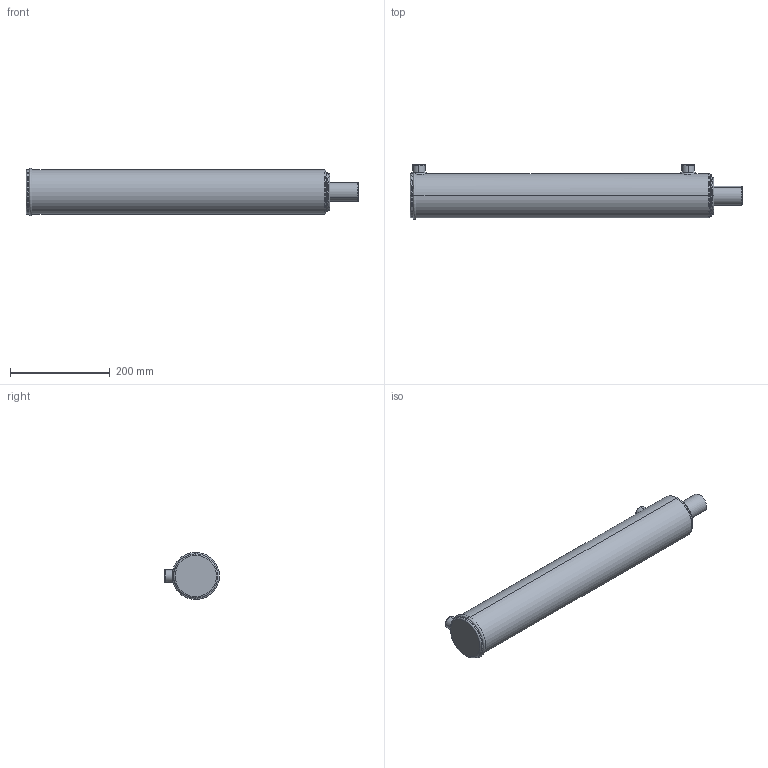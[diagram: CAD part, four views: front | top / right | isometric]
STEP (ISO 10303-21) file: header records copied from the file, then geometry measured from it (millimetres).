
FILE_DESCRIPTION (( 'STEP AP203' ), '1' );
FILE_NAME ('BL300150x508 (20).STEP', '2014-11-23T22:57:56', ( '' ), ( '' ), 'SwSTEP 2.0', 'SolidWorks 2014', '' );
FILE_SCHEMA (( 'CONFIG_CONTROL_DESIGN' ));
Length unit declared in the file: millimetre
Products named in the file (3): BL body 3_3x20; Spare_3x20; BL300150x508 (20)
Assembly tree (2 placements, depth 2):
  BL300150x508 (20)
    BL body 3_3x20
    Spare_3x20
Bounding box: 666 x 109.9 x 94.9 mm (x, y, z)
Volume: 4240577.1 mm3; surface area: 298492 mm2
Topology: 2 solids, 2 shells, 88 faces, 205 edges, 126 vertices
Faces by surface type: cylinder 32, plane 20, torus 17, bspline 11, cone 8
Entity records: 5992 total; most frequent: CARTESIAN_POINT 3745, DIRECTION 420, ORIENTED_EDGE 402, EDGE_CURVE 201, AXIS2_PLACEMENT_3D 181, VERTEX_POINT 126, EDGE_LOOP 101, CIRCLE 99
